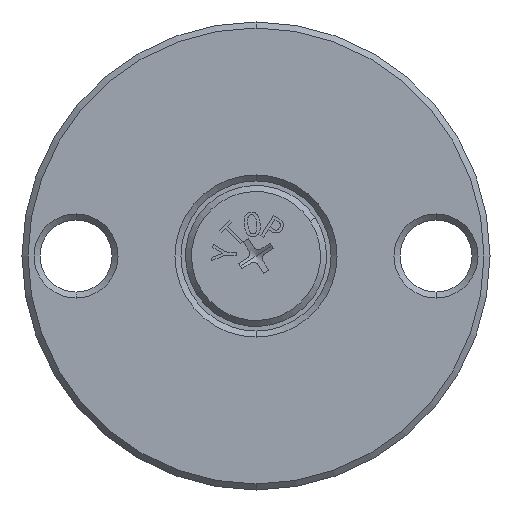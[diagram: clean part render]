
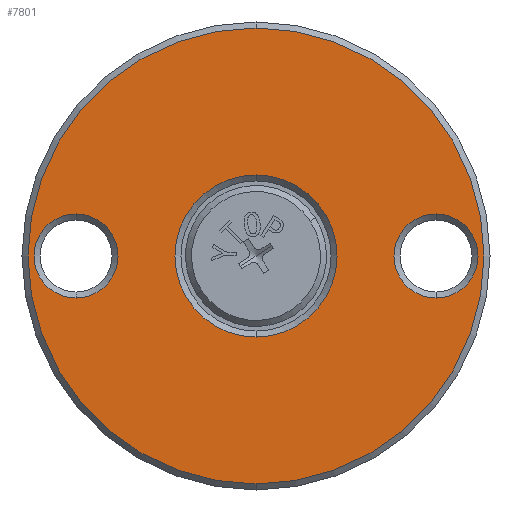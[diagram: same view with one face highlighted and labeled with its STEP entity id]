
A CAD part, front view. The second image highlights one B-rep face of the part: STEP entity #7801.
In plain terms, the highlighted planar face has unit normal (0, -1, 0).
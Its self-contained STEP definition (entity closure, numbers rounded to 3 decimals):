
#113 = CARTESIAN_POINT ( 'NONE',  ( -30., 0., 0. ) ) ;
#132 = DIRECTION ( 'NONE',  ( 0., 1., 0. ) ) ;
#330 = VERTEX_POINT ( 'NONE', #7629 ) ;
#342 = AXIS2_PLACEMENT_3D ( 'NONE', #2672, #1334, #3232 ) ;
#353 = DIRECTION ( 'NONE',  ( 0., 1., 0. ) ) ;
#468 = ORIENTED_EDGE ( 'NONE', *, *, #1382, .T. ) ;
#538 = ORIENTED_EDGE ( 'NONE', *, *, #908, .T. ) ;
#710 = CARTESIAN_POINT ( 'NONE',  ( 0., 0., 0. ) ) ;
#908 = EDGE_CURVE ( 'NONE', #7738, #2147, #7750, .T. ) ;
#946 = EDGE_LOOP ( 'NONE', ( #538, #468 ) ) ;
#983 = CIRCLE ( 'NONE', #2916, 38. ) ;
#1091 = DIRECTION ( 'NONE',  ( 0., -1., 0. ) ) ;
#1158 = CARTESIAN_POINT ( 'NONE',  ( 0., 0., 0. ) ) ;
#1334 = DIRECTION ( 'NONE',  ( 0., 1., 0. ) ) ;
#1365 = EDGE_CURVE ( 'NONE', #330, #7264, #3459, .T. ) ;
#1370 = DIRECTION ( 'NONE',  ( 0., 1., 0. ) ) ;
#1382 = EDGE_CURVE ( 'NONE', #2147, #7738, #8618, .T. ) ;
#1403 = DIRECTION ( 'NONE',  ( 0., 1., 0. ) ) ;
#1431 = DIRECTION ( 'NONE',  ( 0., 0., 1. ) ) ;
#1523 = AXIS2_PLACEMENT_3D ( 'NONE', #7452, #1403, #1431 ) ;
#1668 = FACE_BOUND ( 'NONE', #946, .T. ) ;
#1694 = VERTEX_POINT ( 'NONE', #8660 ) ;
#1841 = EDGE_LOOP ( 'NONE', ( #3087, #4079 ) ) ;
#1916 = DIRECTION ( 'NONE',  ( 0., 1., 0. ) ) ;
#2147 = VERTEX_POINT ( 'NONE', #5343 ) ;
#2215 = EDGE_LOOP ( 'NONE', ( #2918, #8657 ) ) ;
#2242 = CARTESIAN_POINT ( 'NONE',  ( 30., 0., 0. ) ) ;
#2449 = AXIS2_PLACEMENT_3D ( 'NONE', #1158, #1916, #5922 ) ;
#2672 = CARTESIAN_POINT ( 'NONE',  ( 39., 0., 0. ) ) ;
#2787 = DIRECTION ( 'NONE',  ( 0., 0., 1. ) ) ;
#2801 = DIRECTION ( 'NONE',  ( 0., 1., 0. ) ) ;
#2916 = AXIS2_PLACEMENT_3D ( 'NONE', #3555, #5488, #4878 ) ;
#2918 = ORIENTED_EDGE ( 'NONE', *, *, #3710, .T. ) ;
#3087 = ORIENTED_EDGE ( 'NONE', *, *, #5512, .T. ) ;
#3102 = AXIS2_PLACEMENT_3D ( 'NONE', #710, #1370, #2787 ) ;
#3117 = FACE_OUTER_BOUND ( 'NONE', #2215, .T. ) ;
#3161 = CARTESIAN_POINT ( 'NONE',  ( 0., 0., 0. ) ) ;
#3220 = AXIS2_PLACEMENT_3D ( 'NONE', #3161, #1091, #4430 ) ;
#3232 = DIRECTION ( 'NONE',  ( 0., 0., 1. ) ) ;
#3459 = CIRCLE ( 'NONE', #1523, 7. ) ;
#3555 = CARTESIAN_POINT ( 'NONE',  ( 0., 0., 0. ) ) ;
#3710 = EDGE_CURVE ( 'NONE', #6037, #1694, #983, .T. ) ;
#3806 = ORIENTED_EDGE ( 'NONE', *, *, #6881, .T. ) ;
#4079 = ORIENTED_EDGE ( 'NONE', *, *, #1365, .T. ) ;
#4226 = CARTESIAN_POINT ( 'NONE',  ( 0., 0., 13.5 ) ) ;
#4293 = CIRCLE ( 'NONE', #7742, 7. ) ;
#4351 = AXIS2_PLACEMENT_3D ( 'NONE', #8038, #132, #8097 ) ;
#4430 = DIRECTION ( 'NONE',  ( 0., 0., 1. ) ) ;
#4487 = CIRCLE ( 'NONE', #3102, 13.5 ) ;
#4523 = CARTESIAN_POINT ( 'NONE',  ( 30., 0., -7. ) ) ;
#4597 = PLANE ( 'NONE',  #342 ) ;
#4775 = CIRCLE ( 'NONE', #2449, 13.5 ) ;
#4878 = DIRECTION ( 'NONE',  ( 0., 0., 1. ) ) ;
#5006 = ORIENTED_EDGE ( 'NONE', *, *, #8300, .T. ) ;
#5343 = CARTESIAN_POINT ( 'NONE',  ( -30., 0., 7. ) ) ;
#5488 = DIRECTION ( 'NONE',  ( 0., -1., 0. ) ) ;
#5512 = EDGE_CURVE ( 'NONE', #7264, #330, #4293, .T. ) ;
#5525 = VERTEX_POINT ( 'NONE', #4226 ) ;
#5922 = DIRECTION ( 'NONE',  ( 0., 0., 1. ) ) ;
#6037 = VERTEX_POINT ( 'NONE', #7512 ) ;
#6164 = DIRECTION ( 'NONE',  ( 0., 0., 1. ) ) ;
#6230 = DIRECTION ( 'NONE',  ( 0., 0., 1. ) ) ;
#6456 = EDGE_LOOP ( 'NONE', ( #5006, #3806 ) ) ;
#6881 = EDGE_CURVE ( 'NONE', #5525, #8036, #4487, .T. ) ;
#6993 = FACE_BOUND ( 'NONE', #1841, .T. ) ;
#7127 = CARTESIAN_POINT ( 'NONE',  ( -30., 0., -7. ) ) ;
#7164 = EDGE_CURVE ( 'NONE', #1694, #6037, #7620, .T. ) ;
#7264 = VERTEX_POINT ( 'NONE', #4523 ) ;
#7452 = CARTESIAN_POINT ( 'NONE',  ( 30., 0., 0. ) ) ;
#7511 = FACE_BOUND ( 'NONE', #6456, .T. ) ;
#7512 = CARTESIAN_POINT ( 'NONE',  ( 0., 0., 38. ) ) ;
#7620 = CIRCLE ( 'NONE', #3220, 38. ) ;
#7629 = CARTESIAN_POINT ( 'NONE',  ( 30., 0., 7. ) ) ;
#7670 = AXIS2_PLACEMENT_3D ( 'NONE', #113, #2801, #6164 ) ;
#7738 = VERTEX_POINT ( 'NONE', #7127 ) ;
#7742 = AXIS2_PLACEMENT_3D ( 'NONE', #2242, #353, #6230 ) ;
#7750 = CIRCLE ( 'NONE', #7670, 7. ) ;
#7801 = ADVANCED_FACE ( 'NONE', ( #6993, #1668, #3117, #7511 ), #4597, .F. ) ;
#8036 = VERTEX_POINT ( 'NONE', #8205 ) ;
#8038 = CARTESIAN_POINT ( 'NONE',  ( -30., 0., 0. ) ) ;
#8097 = DIRECTION ( 'NONE',  ( 0., 0., 1. ) ) ;
#8205 = CARTESIAN_POINT ( 'NONE',  ( 0., 0., -13.5 ) ) ;
#8300 = EDGE_CURVE ( 'NONE', #8036, #5525, #4775, .T. ) ;
#8618 = CIRCLE ( 'NONE', #4351, 7. ) ;
#8657 = ORIENTED_EDGE ( 'NONE', *, *, #7164, .T. ) ;
#8660 = CARTESIAN_POINT ( 'NONE',  ( 0., 0., -38. ) ) ;
